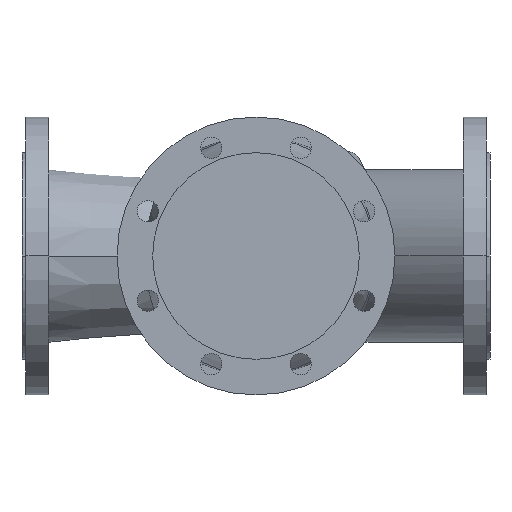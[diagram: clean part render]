
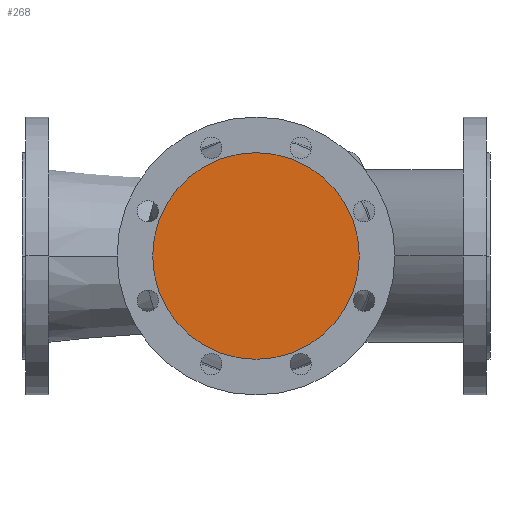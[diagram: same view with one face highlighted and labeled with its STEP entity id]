
A CAD part, front view. The second image highlights one B-rep face of the part: STEP entity #268.
In plain terms, the highlighted planar face has unit normal (0, -1, 0).
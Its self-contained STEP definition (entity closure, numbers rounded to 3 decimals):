
#268 = ADVANCED_FACE( '', ( #737 ), #738, .T. );
#737 = FACE_OUTER_BOUND( '', #1349, .T. );
#738 = PLANE( '', #1350 );
#1349 = EDGE_LOOP( '', ( #2781, #2782 ) );
#1350 = AXIS2_PLACEMENT_3D( '', #2783, #2784, #2785 );
#2781 = ORIENTED_EDGE( '', *, *, #3828, .F. );
#2782 = ORIENTED_EDGE( '', *, *, #4177, .F. );
#2783 = CARTESIAN_POINT( '', ( 293., -210., 0. ) );
#2784 = DIRECTION( '', ( 0., -1., 0. ) );
#2785 = DIRECTION( '', ( -1., 0., 0. ) );
#3828 = EDGE_CURVE( '', #4545, #4548, #4549, .T. );
#4177 = EDGE_CURVE( '', #4548, #4545, #5121, .T. );
#4545 = VERTEX_POINT( '', #5744 );
#4548 = VERTEX_POINT( '', #5748 );
#4549 = CIRCLE( '', #5749, 106. );
#5121 = CIRCLE( '', #6805, 106. );
#5744 = CARTESIAN_POINT( '', ( 346., -210., 0. ) );
#5748 = CARTESIAN_POINT( '', ( 134., -210., 0. ) );
#5749 = AXIS2_PLACEMENT_3D( '', #7543, #7544, #7545 );
#6805 = AXIS2_PLACEMENT_3D( '', #8253, #8254, #8255 );
#7543 = CARTESIAN_POINT( '', ( 240., -210., 0. ) );
#7544 = DIRECTION( '', ( 0., 1., 0. ) );
#7545 = DIRECTION( '', ( 1., 0., 0. ) );
#8253 = CARTESIAN_POINT( '', ( 240., -210., 0. ) );
#8254 = DIRECTION( '', ( 0., 1., 0. ) );
#8255 = DIRECTION( '', ( 1., 0., 0. ) );
